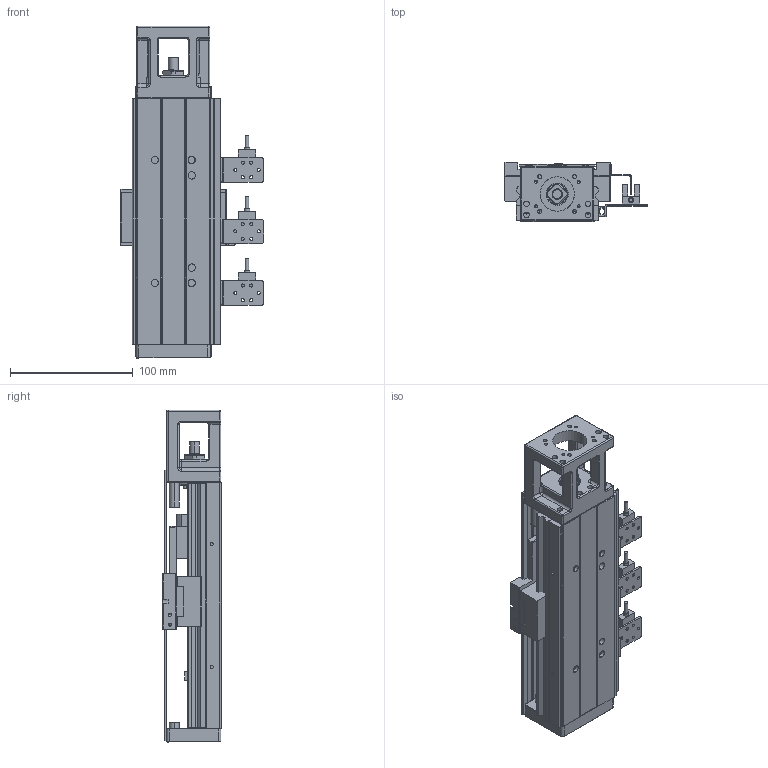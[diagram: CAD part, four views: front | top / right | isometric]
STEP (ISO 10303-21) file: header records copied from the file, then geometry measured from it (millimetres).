
FILE_DESCRIPTION (( 'STEP AP203' ), '1' );
FILE_NAME ('hkk60d-200a1f0cs2.STEP', '2020-07-17T10:13:13', ( 'Micorosoft' ), ( 'Micorosoft' ), 'SwSTEP 2.0', 'SolidWorks 2016', '' );
FILE_SCHEMA (( 'CONFIG_CONTROL_DESIGN' ));
Length unit declared in the file: millimetre
Products named in the file (7): hkk60-300_2; hkk60賑怢_2; 极限轨道-HKK600-200_默认<按加工>; HKK60-10 S1覜茼え; HKK40-09 S1覜茼釱; hkk60d-200a1f0cs2; 嫖萇羲壽SX-674湍盄
Assembly tree (10 placements, depth 2):
  hkk60d-200a1f0cs2
    hkk60-300_2
    hkk60賑怢_2
    极限轨道-HKK600-200_默认<按加工>
    HKK60-10 S1覜茼え
    HKK40-09 S1覜茼釱  x3
    嫖萇羲壽SX-674湍盄  x3
Bounding box: 116.5 x 48 x 270 mm (x, y, z)
Volume: 466534.7 mm3; surface area: 183935.7 mm2
Topology: 49 solids, 55 shells, 1713 faces, 4473 edges, 2749 vertices
Faces by surface type: cylinder 644, plane 623, cone 227, bspline 219
Entity records: 69073 total; most frequent: CARTESIAN_POINT 31051, ORIENTED_EDGE 7966, DIRECTION 7294, EDGE_CURVE 3983, AXIS2_PLACEMENT_3D 2622, VERTEX_POINT 2557, LINE 2050, VECTOR 2050
